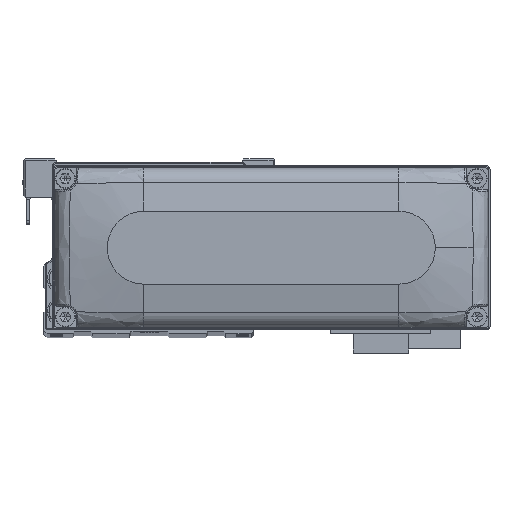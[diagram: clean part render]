
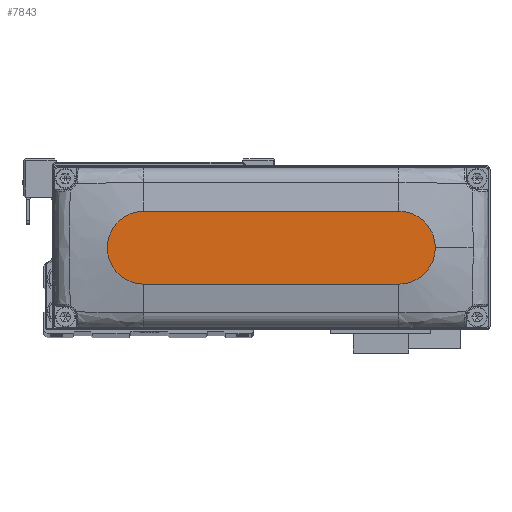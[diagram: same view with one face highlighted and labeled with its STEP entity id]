
A CAD part, top view. The second image highlights one B-rep face of the part: STEP entity #7843.
In plain terms, the highlighted planar face has unit normal (0, 0, 1).
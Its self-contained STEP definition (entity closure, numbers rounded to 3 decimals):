
#962 = ORIENTED_EDGE ( 'NONE', *, *, #7865, .T. ) ;
#2533 = CARTESIAN_POINT ( 'NONE',  ( 35., 0., 28. ) ) ;
#3454 = EDGE_CURVE ( 'NONE', #22366, #27446, #38530, .T. ) ;
#3627 = CARTESIAN_POINT ( 'NONE',  ( 0., 0., 28. ) ) ;
#3816 = LINE ( 'NONE', #15822, #15078 ) ;
#5294 = DIRECTION ( 'NONE',  ( 1., 0., 0. ) ) ;
#7356 = CARTESIAN_POINT ( 'NONE',  ( 35., 0., 28. ) ) ;
#7617 = VECTOR ( 'NONE', #23508, 1000. ) ;
#7843 = ADVANCED_FACE ( 'NONE', ( #18577 ), #30615, .T. ) ;
#7865 = EDGE_CURVE ( 'NONE', #28639, #38611, #3816, .T. ) ;
#8260 = ORIENTED_EDGE ( 'NONE', *, *, #15039, .T. ) ;
#8678 = CARTESIAN_POINT ( 'NONE',  ( -35., 10., 28. ) ) ;
#11506 = CARTESIAN_POINT ( 'NONE',  ( -35., -10., 28. ) ) ;
#12243 = AXIS2_PLACEMENT_3D ( 'NONE', #7356, #19359, #31403 ) ;
#13298 = AXIS2_PLACEMENT_3D ( 'NONE', #2533, #14541, #26565 ) ;
#13461 = CARTESIAN_POINT ( 'NONE',  ( 35., 10., 28. ) ) ;
#13772 = EDGE_CURVE ( 'NONE', #22867, #28639, #30303, .T. ) ;
#13833 = CARTESIAN_POINT ( 'NONE',  ( 35., -10., 28. ) ) ;
#13890 = EDGE_LOOP ( 'NONE', ( #962, #8260, #25917, #26175, #34718 ) ) ;
#14541 = DIRECTION ( 'NONE',  ( 0., 0., 1. ) ) ;
#15039 = EDGE_CURVE ( 'NONE', #38611, #22366, #37321, .T. ) ;
#15078 = VECTOR ( 'NONE', #27849, 1000. ) ;
#15481 = AXIS2_PLACEMENT_3D ( 'NONE', #3627, #15630, #27651 ) ;
#15630 = DIRECTION ( 'NONE',  ( 0., 0., 1. ) ) ;
#15822 = CARTESIAN_POINT ( 'NONE',  ( -35., 10., 28. ) ) ;
#18577 = FACE_OUTER_BOUND ( 'NONE', #13890, .T. ) ;
#19359 = DIRECTION ( 'NONE',  ( 0., 0., 1. ) ) ;
#19426 = CARTESIAN_POINT ( 'NONE',  ( 45., 0., 28. ) ) ;
#20255 = CARTESIAN_POINT ( 'NONE',  ( -35., 0., 28. ) ) ;
#20287 = AXIS2_PLACEMENT_3D ( 'NONE', #20255, #32307, #5294 ) ;
#22366 = VERTEX_POINT ( 'NONE', #37245 ) ;
#22867 = VERTEX_POINT ( 'NONE', #19426 ) ;
#23508 = DIRECTION ( 'NONE',  ( 1., 0., 0. ) ) ;
#25917 = ORIENTED_EDGE ( 'NONE', *, *, #3454, .T. ) ;
#26175 = ORIENTED_EDGE ( 'NONE', *, *, #35705, .T. ) ;
#26565 = DIRECTION ( 'NONE',  ( 1., 0., 0. ) ) ;
#27446 = VERTEX_POINT ( 'NONE', #13833 ) ;
#27651 = DIRECTION ( 'NONE',  ( 1., 0., 0. ) ) ;
#27849 = DIRECTION ( 'NONE',  ( -1., 0., 0. ) ) ;
#28639 = VERTEX_POINT ( 'NONE', #13461 ) ;
#29244 = CIRCLE ( 'NONE', #12243, 10. ) ;
#30303 = CIRCLE ( 'NONE', #13298, 10. ) ;
#30615 = PLANE ( 'NONE',  #15481 ) ;
#31403 = DIRECTION ( 'NONE',  ( 1., 0., 0. ) ) ;
#32307 = DIRECTION ( 'NONE',  ( 0., 0., 1. ) ) ;
#34718 = ORIENTED_EDGE ( 'NONE', *, *, #13772, .T. ) ;
#35705 = EDGE_CURVE ( 'NONE', #27446, #22867, #29244, .T. ) ;
#37245 = CARTESIAN_POINT ( 'NONE',  ( -35., -10., 28. ) ) ;
#37321 = CIRCLE ( 'NONE', #20287, 10. ) ;
#38530 = LINE ( 'NONE', #11506, #7617 ) ;
#38611 = VERTEX_POINT ( 'NONE', #8678 ) ;
